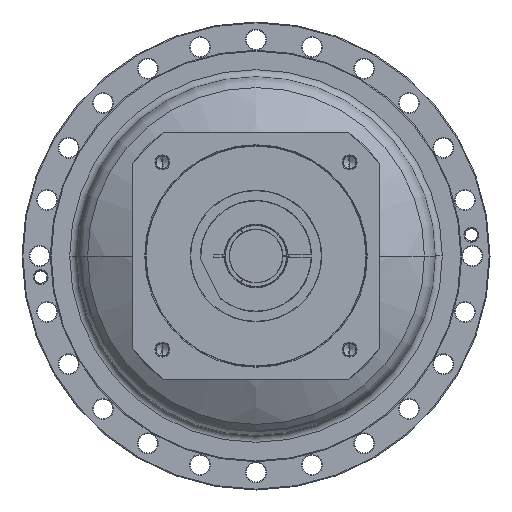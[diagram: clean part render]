
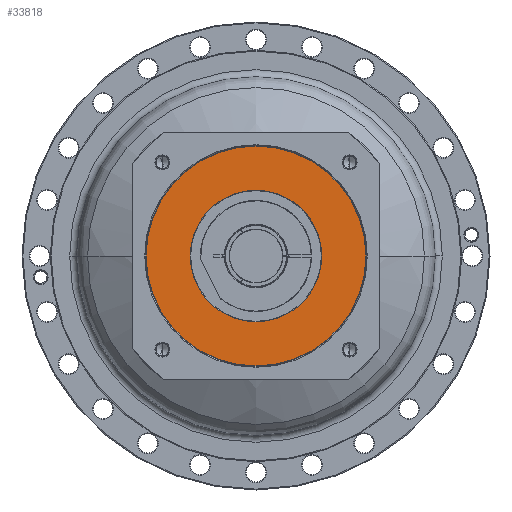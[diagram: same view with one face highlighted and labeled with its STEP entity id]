
A CAD part, left-side view. The second image highlights one B-rep face of the part: STEP entity #33818.
In plain terms, the highlighted planar face has unit normal (-1, 0, 0) as drawn and (0, 0, 1) by its records, which use the part's own axes.
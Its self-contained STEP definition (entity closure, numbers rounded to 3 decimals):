
#32549=CARTESIAN_POINT('',(0.,0.,58.));
#32550=DIRECTION('',(0.,0.,-1.));
#32551=DIRECTION('',(0.,-1.,0.));
#32552=AXIS2_PLACEMENT_3D('',#32549,#32550,#32551);
#32554=CARTESIAN_POINT('',(0.,0.,58.));
#32555=DIRECTION('',(0.,0.,-1.));
#32556=DIRECTION('',(0.,1.,0.));
#32557=AXIS2_PLACEMENT_3D('',#32554,#32555,#32556);
#32559=CARTESIAN_POINT('',(0.,0.,58.));
#32560=DIRECTION('',(0.,0.,-1.));
#32561=DIRECTION('',(1.,0.,0.));
#32562=AXIS2_PLACEMENT_3D('',#32559,#32560,#32561);
#32577=CARTESIAN_POINT('',(0.,0.,58.));
#32578=DIRECTION('',(0.,0.,-1.));
#32579=DIRECTION('',(-1.,0.,0.));
#32580=AXIS2_PLACEMENT_3D('',#32577,#32578,#32579);
#33112=CARTESIAN_POINT('',(0.,-124.5,58.));
#33113=CARTESIAN_POINT('',(0.,124.5,58.));
#33114=VERTEX_POINT('',#33112);
#33115=VERTEX_POINT('',#33113);
#33120=CARTESIAN_POINT('',(-74.5,0.,58.));
#33121=CARTESIAN_POINT('',(74.5,0.,58.));
#33122=VERTEX_POINT('',#33120);
#33123=VERTEX_POINT('',#33121);
#33802=CARTESIAN_POINT('',(0.,0.,58.));
#33803=DIRECTION('',(0.,0.,-1.));
#33804=DIRECTION('',(0.,-1.,0.));
#33805=AXIS2_PLACEMENT_3D('',#33802,#33803,#33804);
#33806=PLANE('',#33805);
#33808=ORIENTED_EDGE('',*,*,#33807,.T.);
#33809=ORIENTED_EDGE('',*,*,#33792,.T.);
#33810=EDGE_LOOP('',(#33808,#33809));
#33811=FACE_OUTER_BOUND('',#33810,.F.);
#33813=ORIENTED_EDGE('',*,*,#33812,.F.);
#33815=ORIENTED_EDGE('',*,*,#33814,.F.);
#33816=EDGE_LOOP('',(#33813,#33815));
#33817=FACE_BOUND('',#33816,.F.);
#33818=ADVANCED_FACE('',(#33811,#33817),#33806,.F.);
#32553=CIRCLE('',#32552,124.5);
#32558=CIRCLE('',#32557,124.5);
#32563=CIRCLE('',#32562,74.5);
#32581=CIRCLE('',#32580,74.5);
#33792=EDGE_CURVE('',#33115,#33114,#32558,.T.);
#33807=EDGE_CURVE('',#33114,#33115,#32553,.T.);
#33812=EDGE_CURVE('',#33123,#33122,#32563,.T.);
#33814=EDGE_CURVE('',#33122,#33123,#32581,.T.);
